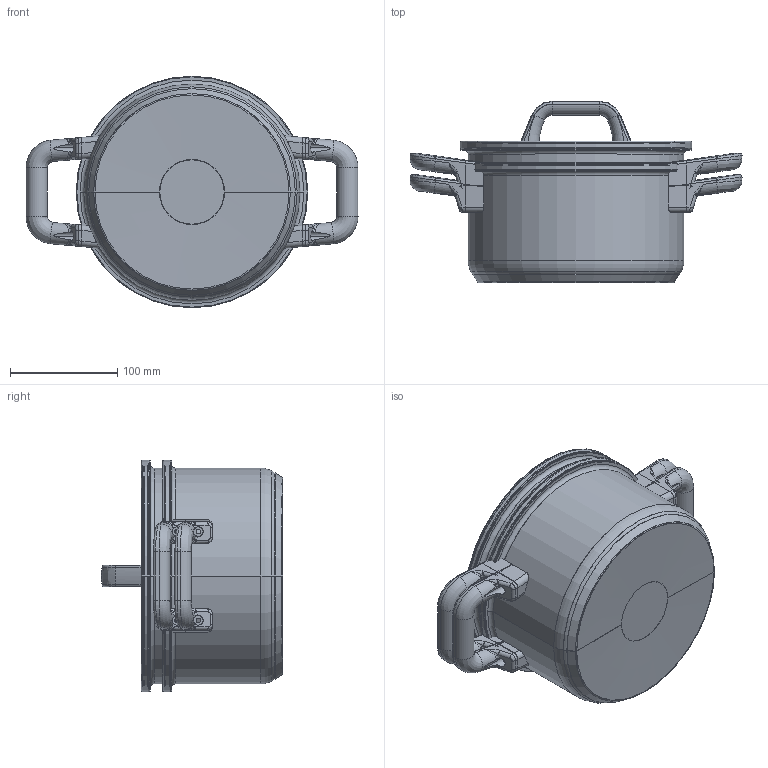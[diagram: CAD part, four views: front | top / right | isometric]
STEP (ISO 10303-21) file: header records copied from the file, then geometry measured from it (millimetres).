
FILE_DESCRIPTION((''),'2;1');
FILE_NAME('200_ASM','2024-03-26T15:56:15',('3'),(''),'CREO PARAMETRIC BY PTC INC, 2021164','CREO PARAMETRIC BY PTC INC, 2021164','');
FILE_SCHEMA(('CONFIG_CONTROL_DESIGN','SHAPE_APPEARANCE_LAYERS_GROUPS'));
Length unit declared in the file: millimetre
Products named in the file (9): LF-B-200X100-0001; LF-B-200X120-0001; GAIER-PINGBAN; MANIFOLD_SOLID_BREP_7721; MANIFOLD_SOLID_BREP_8679; MANIFOLD_SOLID_BREP_9636; 20--24--CEER_ASM_ASM; 20--24--CEER_ASM; 200_ASM
Assembly tree (11 placements, depth 4):
  200_ASM
    LF-B-200X100-0001
    LF-B-200X120-0001
    GAIER-PINGBAN
    20--24--CEER_ASM  x4
      20--24--CEER_ASM_ASM
        MANIFOLD_SOLID_BREP_7721
        MANIFOLD_SOLID_BREP_8679
        MANIFOLD_SOLID_BREP_9636
Bounding box: 310.08 x 169.5 x 216.2 mm (x, y, z)
Volume: 746620.6 mm3; surface area: 837008.5 mm2
Topology: 23 solids, 23 shells, 854 faces, 1965 edges, 1175 vertices
Faces by surface type: cylinder 338, plane 234, bspline 170, torus 84, cone 28
Entity records: 15940 total; most frequent: CARTESIAN_POINT 7570, DIRECTION 1756, ORIENTED_EDGE 1668, EDGE_CURVE 834, AXIS2_PLACEMENT_3D 740, VERTEX_POINT 494, EDGE_LOOP 412, FACE_OUTER_BOUND 380
